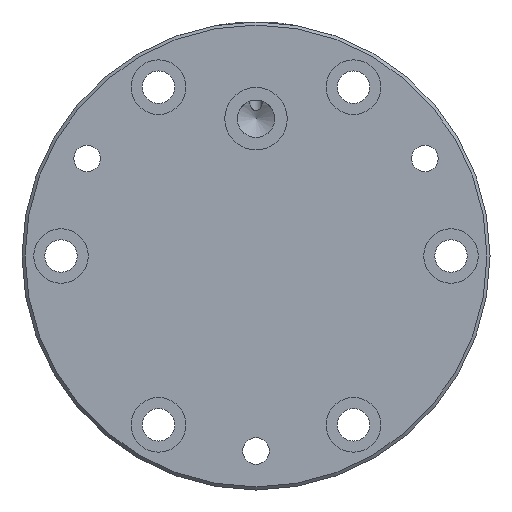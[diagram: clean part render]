
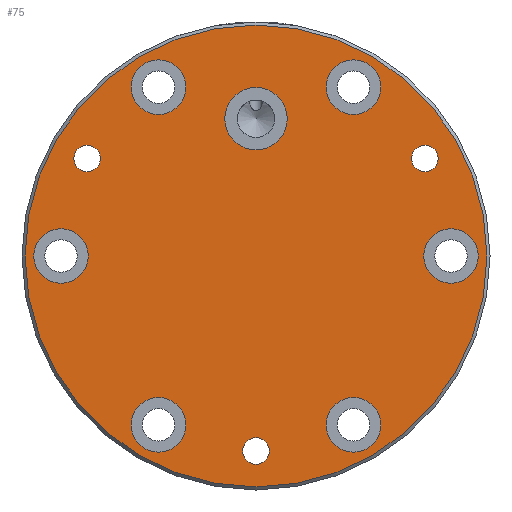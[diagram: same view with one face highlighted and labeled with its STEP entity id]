
A CAD part, left-side view. The second image highlights one B-rep face of the part: STEP entity #75.
In plain terms, the highlighted planar face has unit normal (-1, 0, 0).
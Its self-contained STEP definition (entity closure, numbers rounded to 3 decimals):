
#75 = ADVANCED_FACE( '', ( #119, #120, #121, #122, #123, #124, #125, #126, #127, #128, #129 ), #130, .T. );
#119 = FACE_BOUND( '', #267, .T. );
#120 = FACE_BOUND( '', #268, .T. );
#121 = FACE_BOUND( '', #269, .T. );
#122 = FACE_BOUND( '', #270, .T. );
#123 = FACE_BOUND( '', #271, .T. );
#124 = FACE_BOUND( '', #272, .T. );
#125 = FACE_BOUND( '', #273, .T. );
#126 = FACE_BOUND( '', #274, .T. );
#127 = FACE_BOUND( '', #275, .T. );
#128 = FACE_OUTER_BOUND( '', #276, .T. );
#129 = FACE_BOUND( '', #277, .T. );
#130 = PLANE( '', #278 );
#267 = EDGE_LOOP( '', ( #415 ) );
#268 = EDGE_LOOP( '', ( #416 ) );
#269 = EDGE_LOOP( '', ( #417 ) );
#270 = EDGE_LOOP( '', ( #418 ) );
#271 = EDGE_LOOP( '', ( #419 ) );
#272 = EDGE_LOOP( '', ( #420 ) );
#273 = EDGE_LOOP( '', ( #421 ) );
#274 = EDGE_LOOP( '', ( #422 ) );
#275 = EDGE_LOOP( '', ( #423 ) );
#276 = EDGE_LOOP( '', ( #424 ) );
#277 = EDGE_LOOP( '', ( #425 ) );
#278 = AXIS2_PLACEMENT_3D( '', #426, #427, #428 );
#415 = ORIENTED_EDGE( '', *, *, #652, .F. );
#416 = ORIENTED_EDGE( '', *, *, #653, .F. );
#417 = ORIENTED_EDGE( '', *, *, #654, .F. );
#418 = ORIENTED_EDGE( '', *, *, #655, .T. );
#419 = ORIENTED_EDGE( '', *, *, #656, .T. );
#420 = ORIENTED_EDGE( '', *, *, #657, .T. );
#421 = ORIENTED_EDGE( '', *, *, #658, .T. );
#422 = ORIENTED_EDGE( '', *, *, #659, .T. );
#423 = ORIENTED_EDGE( '', *, *, #660, .T. );
#424 = ORIENTED_EDGE( '', *, *, #661, .T. );
#425 = ORIENTED_EDGE( '', *, *, #662, .T. );
#426 = CARTESIAN_POINT( '', ( 0., 0., 0. ) );
#427 = DIRECTION( '', ( -1., 0., 0. ) );
#428 = DIRECTION( '', ( 0., 0., 1. ) );
#652 = EDGE_CURVE( '', #707, #707, #708, .T. );
#653 = EDGE_CURVE( '', #709, #709, #710, .T. );
#654 = EDGE_CURVE( '', #711, #711, #712, .T. );
#655 = EDGE_CURVE( '', #713, #713, #714, .T. );
#656 = EDGE_CURVE( '', #715, #715, #716, .T. );
#657 = EDGE_CURVE( '', #717, #717, #718, .T. );
#658 = EDGE_CURVE( '', #719, #719, #720, .T. );
#659 = EDGE_CURVE( '', #721, #721, #722, .T. );
#660 = EDGE_CURVE( '', #723, #723, #724, .T. );
#661 = EDGE_CURVE( '', #725, #725, #726, .T. );
#662 = EDGE_CURVE( '', #727, #727, #728, .T. );
#707 = VERTEX_POINT( '', #812 );
#708 = CIRCLE( '', #813, 4.25 );
#709 = VERTEX_POINT( '', #814 );
#710 = CIRCLE( '', #815, 4.25 );
#711 = VERTEX_POINT( '', #816 );
#712 = CIRCLE( '', #817, 4.25 );
#713 = VERTEX_POINT( '', #818 );
#714 = CIRCLE( '', #819, 8.75 );
#715 = VERTEX_POINT( '', #820 );
#716 = CIRCLE( '', #821, 8.75 );
#717 = VERTEX_POINT( '', #822 );
#718 = CIRCLE( '', #823, 8.75 );
#719 = VERTEX_POINT( '', #824 );
#720 = CIRCLE( '', #825, 8.75 );
#721 = VERTEX_POINT( '', #826 );
#722 = CIRCLE( '', #827, 8.75 );
#723 = VERTEX_POINT( '', #828 );
#724 = CIRCLE( '', #829, 8.75 );
#725 = VERTEX_POINT( '', #830 );
#726 = CIRCLE( '', #831, 74. );
#727 = VERTEX_POINT( '', #832 );
#728 = CIRCLE( '', #833, 10. );
#812 = CARTESIAN_POINT( '', ( 0., 4.25, -62.5 ) );
#813 = AXIS2_PLACEMENT_3D( '', #1130, #1131, #1132 );
#814 = CARTESIAN_POINT( '', ( 0., 58.377, 31.25 ) );
#815 = AXIS2_PLACEMENT_3D( '', #1133, #1134, #1135 );
#816 = CARTESIAN_POINT( '', ( 0., -49.877, 31.25 ) );
#817 = AXIS2_PLACEMENT_3D( '', #1136, #1137, #1138 );
#818 = CARTESIAN_POINT( '', ( 0., 62.5, 8.75 ) );
#819 = AXIS2_PLACEMENT_3D( '', #1139, #1140, #1141 );
#820 = CARTESIAN_POINT( '', ( 0., 31.25, 62.877 ) );
#821 = AXIS2_PLACEMENT_3D( '', #1142, #1143, #1144 );
#822 = CARTESIAN_POINT( '', ( 0., -31.25, 62.877 ) );
#823 = AXIS2_PLACEMENT_3D( '', #1145, #1146, #1147 );
#824 = CARTESIAN_POINT( '', ( 0., -62.5, 8.75 ) );
#825 = AXIS2_PLACEMENT_3D( '', #1148, #1149, #1150 );
#826 = CARTESIAN_POINT( '', ( 0., -31.25, -45.377 ) );
#827 = AXIS2_PLACEMENT_3D( '', #1151, #1152, #1153 );
#828 = CARTESIAN_POINT( '', ( 0., 31.25, -45.377 ) );
#829 = AXIS2_PLACEMENT_3D( '', #1154, #1155, #1156 );
#830 = CARTESIAN_POINT( '', ( 0., 0., 74. ) );
#831 = AXIS2_PLACEMENT_3D( '', #1157, #1158, #1159 );
#832 = CARTESIAN_POINT( '', ( 0., 10., 44. ) );
#833 = AXIS2_PLACEMENT_3D( '', #1160, #1161, #1162 );
#1130 = CARTESIAN_POINT( '', ( 0., 0., -62.5 ) );
#1131 = DIRECTION( '', ( -1., 0., 0. ) );
#1132 = DIRECTION( '', ( 0., 1., 0. ) );
#1133 = CARTESIAN_POINT( '', ( 0., 54.127, 31.25 ) );
#1134 = DIRECTION( '', ( -1., 0., 0. ) );
#1135 = DIRECTION( '', ( 0., 1., 0. ) );
#1136 = CARTESIAN_POINT( '', ( 0., -54.127, 31.25 ) );
#1137 = DIRECTION( '', ( -1., 0., 0. ) );
#1138 = DIRECTION( '', ( 0., 1., 0. ) );
#1139 = CARTESIAN_POINT( '', ( 0., 62.5, 0. ) );
#1140 = DIRECTION( '', ( 1., 0., 0. ) );
#1141 = DIRECTION( '', ( 0., 0., 1. ) );
#1142 = CARTESIAN_POINT( '', ( 0., 31.25, 54.127 ) );
#1143 = DIRECTION( '', ( 1., 0., 0. ) );
#1144 = DIRECTION( '', ( 0., 0., 1. ) );
#1145 = CARTESIAN_POINT( '', ( 0., -31.25, 54.127 ) );
#1146 = DIRECTION( '', ( 1., 0., 0. ) );
#1147 = DIRECTION( '', ( 0., 0., 1. ) );
#1148 = CARTESIAN_POINT( '', ( 0., -62.5, 0. ) );
#1149 = DIRECTION( '', ( 1., 0., 0. ) );
#1150 = DIRECTION( '', ( 0., 0., 1. ) );
#1151 = CARTESIAN_POINT( '', ( 0., -31.25, -54.127 ) );
#1152 = DIRECTION( '', ( 1., 0., 0. ) );
#1153 = DIRECTION( '', ( 0., 0., 1. ) );
#1154 = CARTESIAN_POINT( '', ( 0., 31.25, -54.127 ) );
#1155 = DIRECTION( '', ( 1., 0., 0. ) );
#1156 = DIRECTION( '', ( 0., 0., 1. ) );
#1157 = CARTESIAN_POINT( '', ( 0., 0., 0. ) );
#1158 = DIRECTION( '', ( -1., 0., 0. ) );
#1159 = DIRECTION( '', ( 0., 0., 1. ) );
#1160 = CARTESIAN_POINT( '', ( 0., 0., 44. ) );
#1161 = DIRECTION( '', ( 1., 0., 0. ) );
#1162 = DIRECTION( '', ( 0., 1., 0. ) );
